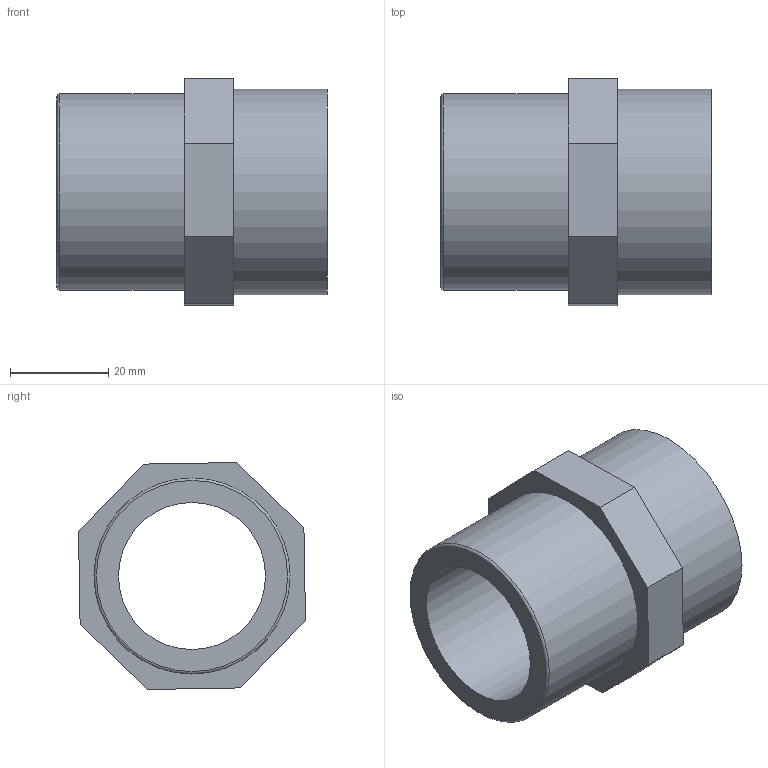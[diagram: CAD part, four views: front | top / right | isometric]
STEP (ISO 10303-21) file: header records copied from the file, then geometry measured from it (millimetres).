
FILE_DESCRIPTION(/* description */ (''),/* implementation_level */ '2;1');
FILE_NAME(/* name */ 'C:\Users\Gabriele\Desktop\disegni 3D\SF12\SF12040D.ipt.stp',/* time_stamp */ '2017-02-10T10:11:15+01:00',/* author */ ('Eugenio'),/* organization */ (''),/* preprocessor_version */ 'ST-DEVELOPER v16.5',/* originating_system */ 'Autodesk Inventor 2017',/* authorisation */ '');
FILE_SCHEMA (('AUTOMOTIVE_DESIGN { 1 0 10303 214 3 1 1 }'));
Length unit declared in the file: millimetre
Products named in the file (1): SF12040D
Bounding box: 55.1 x 46.32 x 46.32 mm (x, y, z)
Volume: 36082 mm3; surface area: 20163.2 mm2
Topology: 2 solids, 2 shells, 28 faces, 62 edges, 41 vertices
Faces by surface type: plane 15, cylinder 6, bspline 6, torus 1
Full cylindrical faces by diameter (mm): 30 x1, 33.25 x2, 40 x1, 42 x1
Entity records: 4605 total; most frequent: CARTESIAN_POINT 4015, ORIENTED_EDGE 112, DIRECTION 96, EDGE_CURVE 56, EDGE_LOOP 41, VERTEX_POINT 41, AXIS2_PLACEMENT_3D 36, FACE_OUTER_BOUND 28
